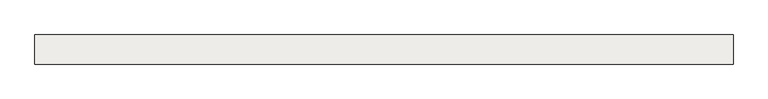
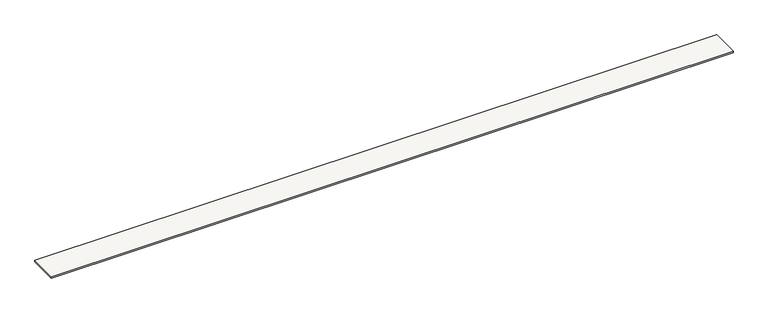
"""IFC4 building model written with IfcOpenShell, lengths in millimetres: slab geometry, Sol-02 - Tablette bois 2cm."""

from ifc_helpers import new_model, si_unit, origin, origin_with_axes, place, context, project, spatial, polyline, outline, extrude, source, transform, mapped, element, save


def slab_67a58deb(model_context):
    return source(origin(), model_context, "Body", "SweptSolid", [
        extrude(outline(polyline([(40511.9999476, 0.0), (32138.0, 0.0), (32138.0, 350.0), (40511.9999476, 350.0), (40511.9999476, 0.0)])), origin_with_axes(), (0.0, 0.0, 1.0), 20.0),
    ])


if __name__ == "__main__":
    model = new_model("IFC4")
    model_context = context("Model", 3, world=origin())
    ifc_project = project(units=[si_unit("LENGTHUNIT", "METRE", prefix="MILLI")], contexts=[model_context])
    site = spatial("IfcSite", under=ifc_project)
    building = spatial("IfcBuilding", under=site)
    placement = place(None, origin())
    slab_shape = slab_67a58deb(model_context)
    element("IfcSlab", 1, ObjectType="Sol-02 - Tablette bois 2cm", at=placement, inside=building, context=model_context, shape_type="MappedRepresentation", body=[
        mapped(slab_shape, transform((0.0, 0.0, 0.0), x_axis=(1.0, 0.0, 0.0), y_axis=(0.0, 1.0, 0.0), z_axis=(0.0, 0.0, 1.0))),
    ])
    save(model, "model.ifc")
